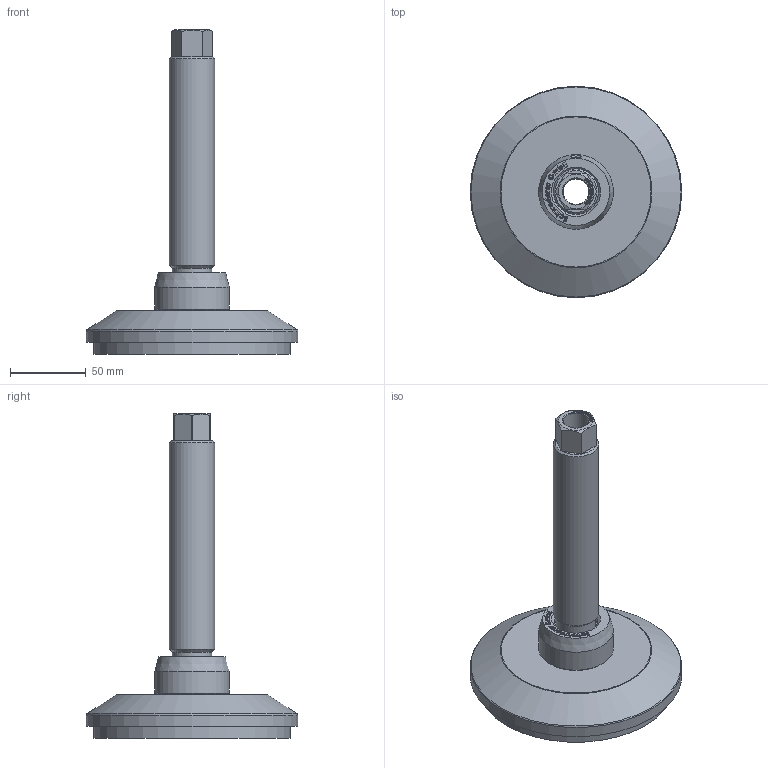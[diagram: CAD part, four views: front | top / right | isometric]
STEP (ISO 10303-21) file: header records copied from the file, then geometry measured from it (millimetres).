
FILE_DESCRIPTION(/* description */ ('JCM 130C - M30 - S12'),/* implementation_level */ '2;1');
FILE_NAME(/* name */ 'C:\Users\Public\Documents\Autodesk\Inventor LT 2016\Workspace\Fussplatte+Blechteller\JCMHD 130C - S12 - HSD180.stp',/* time_stamp */ '2017-01-10T11:16:49+01:00',/* author */ ('T. Rey'),/* organization */ ('Schwaderer GmbH Robert-Bosch-Str. 10 71563 Affalterbach'),/* preprocessor_version */ 'ST-DEVELOPER v16.1',/* originating_system */ 'Autodesk Inventor LT ',/* authorisation */ '');
FILE_SCHEMA (('CONFIG_CONTROL_DESIGN'));
Length unit declared in the file: millimetre
Products named in the file (1): JCM - M30
Bounding box: 140 x 140 x 215.13 mm (x, y, z)
Volume: 473216.3 mm3; surface area: 106264 mm2
Topology: 4 solids, 4 shells, 479 faces, 1260 edges, 829 vertices
Faces by surface type: plane 243, bspline 192, cylinder 23, cone 17, torus 3, sphere 1
Full cylindrical faces by diameter (mm): 5 x1, 17 x1, 18.5 x1, 25 x1, 26 x1, 26.5 x1, 27.5 x1, 28.5 x2, 30 x2, 31 x1, 49.5 x1, 130 x2, 140 x1
Entity records: 15857 total; most frequent: CARTESIAN_POINT 5181, ORIENTED_EDGE 2440, DIRECTION 1468, EDGE_CURVE 1220, VERTEX_POINT 824, LINE 750, VECTOR 750, EDGE_LOOP 564
